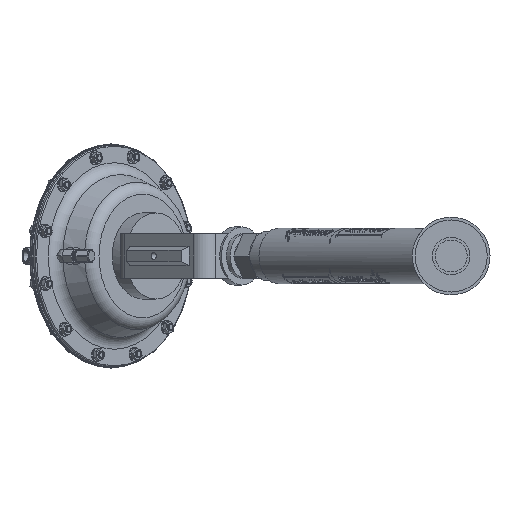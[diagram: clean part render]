
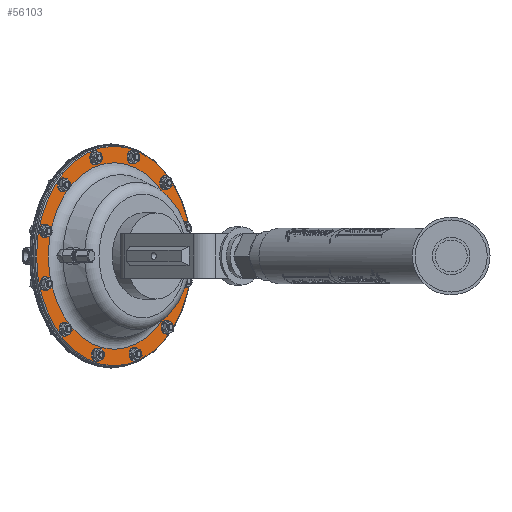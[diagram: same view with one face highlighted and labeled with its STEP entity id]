
A CAD part, left-side view. The second image highlights one B-rep face of the part: STEP entity #56103.
In plain terms, the highlighted planar face has unit normal (-0.707, -0.707, 0).
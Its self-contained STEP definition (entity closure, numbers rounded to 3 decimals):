
#416 = DIRECTION ( 'NONE',  ( 0., 0., 1. ) ) ;
#1109 = CIRCLE ( 'NONE', #15715, 0.313 ) ;
#1874 = EDGE_LOOP ( 'NONE', ( #60133 ) ) ;
#2381 = CARTESIAN_POINT ( 'NONE',  ( 20.097, 17.511, 3.519 ) ) ;
#3710 = DIRECTION ( 'NONE',  ( 0., 0., 1. ) ) ;
#3987 = CARTESIAN_POINT ( 'NONE',  ( 19.276, 18.332, 1.128 ) ) ;
#4164 = CARTESIAN_POINT ( 'NONE',  ( 22.429, 15.179, 0. ) ) ;
#4278 = DIRECTION ( 'NONE',  ( -0.707, -0.707, 0. ) ) ;
#4341 = CIRCLE ( 'NONE', #65932, 0.313 ) ;
#4771 = EDGE_CURVE ( 'NONE', #43981, #43981, #4341, .T. ) ;
#5056 = ORIENTED_EDGE ( 'NONE', *, *, #4771, .T. ) ;
#5830 = CARTESIAN_POINT ( 'NONE',  ( 20.097, 17.511, 3.207 ) ) ;
#7117 = AXIS2_PLACEMENT_3D ( 'NONE', #65814, #49365, #61231 ) ;
#7242 = FACE_BOUND ( 'NONE', #31561, .T. ) ;
#8243 = VERTEX_POINT ( 'NONE', #36334 ) ;
#8330 = VERTEX_POINT ( 'NONE', #36069 ) ;
#8619 = DIRECTION ( 'NONE',  ( 0.707, 0.707, 0. ) ) ;
#8681 = CARTESIAN_POINT ( 'NONE',  ( 24.761, 12.847, -2.894 ) ) ;
#8852 = DIRECTION ( 'NONE',  ( 0., 0., 1. ) ) ;
#9187 = CARTESIAN_POINT ( 'NONE',  ( 22.429, 15.179, 0. ) ) ;
#9437 = EDGE_CURVE ( 'NONE', #20378, #20378, #61630, .T. ) ;
#10610 = ORIENTED_EDGE ( 'NONE', *, *, #19132, .T. ) ;
#10866 = CARTESIAN_POINT ( 'NONE',  ( 23.227, 14.381, 4.772 ) ) ;
#11983 = EDGE_CURVE ( 'NONE', #31606, #31606, #1109, .T. ) ;
#12170 = FACE_BOUND ( 'NONE', #67868, .T. ) ;
#12489 = EDGE_LOOP ( 'NONE', ( #33820 ) ) ;
#12849 = FACE_BOUND ( 'NONE', #1874, .T. ) ;
#14311 = EDGE_LOOP ( 'NONE', ( #15221 ) ) ;
#14610 = AXIS2_PLACEMENT_3D ( 'NONE', #5830, #21986, #65126 ) ;
#14729 = CARTESIAN_POINT ( 'NONE',  ( 24.761, 12.847, -3.207 ) ) ;
#14785 = ORIENTED_EDGE ( 'NONE', *, *, #23966, .T. ) ;
#15221 = ORIENTED_EDGE ( 'NONE', *, *, #34800, .T. ) ;
#15715 = AXIS2_PLACEMENT_3D ( 'NONE', #68527, #56939, #8852 ) ;
#15732 = EDGE_CURVE ( 'NONE', #37558, #37558, #35386, .T. ) ;
#17746 = CARTESIAN_POINT ( 'NONE',  ( 21.543, 16.065, 4.739 ) ) ;
#17827 = CARTESIAN_POINT ( 'NONE',  ( 23.315, 14.293, -4.114 ) ) ;
#17841 = CARTESIAN_POINT ( 'NONE',  ( 24.697, 12.912, 3.611 ) ) ;
#18126 = FACE_BOUND ( 'NONE', #22657, .T. ) ;
#19132 = EDGE_CURVE ( 'NONE', #65566, #65566, #36259, .T. ) ;
#19757 = EDGE_LOOP ( 'NONE', ( #36396 ) ) ;
#20348 = DIRECTION ( 'NONE',  ( 0.707, 0.707, 0. ) ) ;
#20378 = VERTEX_POINT ( 'NONE', #57906 ) ;
#20619 = AXIS2_PLACEMENT_3D ( 'NONE', #37420, #68646, #41651 ) ;
#20626 = AXIS2_PLACEMENT_3D ( 'NONE', #14729, #20348, #57527 ) ;
#21194 = DIRECTION ( 'NONE',  ( 0.707, 0.707, 0. ) ) ;
#21350 = AXIS2_PLACEMENT_3D ( 'NONE', #55261, #48391, #53649 ) ;
#21986 = DIRECTION ( 'NONE',  ( 0.707, 0.707, 0. ) ) ;
#22476 = ORIENTED_EDGE ( 'NONE', *, *, #57144, .F. ) ;
#22657 = EDGE_LOOP ( 'NONE', ( #14785 ) ) ;
#23966 = EDGE_CURVE ( 'NONE', #32985, #32985, #31861, .T. ) ;
#24093 = DIRECTION ( 'NONE',  ( 0.707, 0.707, 0. ) ) ;
#25071 = CIRCLE ( 'NONE', #29525, 0.313 ) ;
#25412 = DIRECTION ( 'NONE',  ( 0., 0., 1. ) ) ;
#26343 = CARTESIAN_POINT ( 'NONE',  ( 25.582, 12.026, -0.815 ) ) ;
#26862 = EDGE_CURVE ( 'NONE', #39936, #39936, #44875, .T. ) ;
#27626 = VERTEX_POINT ( 'NONE', #17746 ) ;
#27654 = FACE_BOUND ( 'NONE', #57894, .T. ) ;
#28159 = EDGE_LOOP ( 'NONE', ( #44491 ) ) ;
#29511 = DIRECTION ( 'NONE',  ( 0.707, 0.707, 0. ) ) ;
#29525 = AXIS2_PLACEMENT_3D ( 'NONE', #35522, #39742, #67443 ) ;
#29764 = AXIS2_PLACEMENT_3D ( 'NONE', #41101, #29511, #41453 ) ;
#30110 = VERTEX_POINT ( 'NONE', #8681 ) ;
#30232 = EDGE_LOOP ( 'NONE', ( #22476 ) ) ;
#30403 = DIRECTION ( 'NONE',  ( 0., 0., 1. ) ) ;
#30612 = DIRECTION ( 'NONE',  ( 0., 0., -1. ) ) ;
#31545 = DIRECTION ( 'NONE',  ( 0., 0., -1. ) ) ;
#31561 = EDGE_LOOP ( 'NONE', ( #43309 ) ) ;
#31606 = VERTEX_POINT ( 'NONE', #10866 ) ;
#31861 = CIRCLE ( 'NONE', #20619, 0.313 ) ;
#32070 = CARTESIAN_POINT ( 'NONE',  ( 20.162, 17.447, -2.986 ) ) ;
#32985 = VERTEX_POINT ( 'NONE', #17827 ) ;
#33070 = CARTESIAN_POINT ( 'NONE',  ( 21.631, 15.977, -4.46 ) ) ;
#33248 = FACE_BOUND ( 'NONE', #12489, .T. ) ;
#33820 = ORIENTED_EDGE ( 'NONE', *, *, #9437, .T. ) ;
#34487 = EDGE_CURVE ( 'NONE', #57803, #57803, #25071, .T. ) ;
#34800 = EDGE_CURVE ( 'NONE', #8330, #8330, #49769, .T. ) ;
#35073 = EDGE_CURVE ( 'NONE', #30110, #30110, #60910, .T. ) ;
#35318 = FACE_OUTER_BOUND ( 'NONE', #14311, .T. ) ;
#35386 = CIRCLE ( 'NONE', #29764, 0.313 ) ;
#35522 = CARTESIAN_POINT ( 'NONE',  ( 19.299, 18.309, -1.253 ) ) ;
#35667 = FACE_BOUND ( 'NONE', #30232, .T. ) ;
#35900 = CIRCLE ( 'NONE', #65001, 4.203 ) ;
#36069 = CARTESIAN_POINT ( 'NONE',  ( 22.429, 15.179, -4.95 ) ) ;
#36259 = CIRCLE ( 'NONE', #7117, 0.313 ) ;
#36334 = CARTESIAN_POINT ( 'NONE',  ( 22.429, 15.179, -4.203 ) ) ;
#36396 = ORIENTED_EDGE ( 'NONE', *, *, #26862, .T. ) ;
#36403 = AXIS2_PLACEMENT_3D ( 'NONE', #33070, #59718, #416 ) ;
#37144 = EDGE_CURVE ( 'NONE', #62709, #62709, #59919, .T. ) ;
#37420 = CARTESIAN_POINT ( 'NONE',  ( 23.315, 14.293, -4.426 ) ) ;
#37558 = VERTEX_POINT ( 'NONE', #26343 ) ;
#37636 = DIRECTION ( 'NONE',  ( 0., 0., 1. ) ) ;
#37871 = EDGE_LOOP ( 'NONE', ( #5056 ) ) ;
#38212 = AXIS2_PLACEMENT_3D ( 'NONE', #3987, #21194, #25412 ) ;
#39544 = FACE_BOUND ( 'NONE', #59890, .T. ) ;
#39742 = DIRECTION ( 'NONE',  ( 0.707, 0.707, 0. ) ) ;
#39936 = VERTEX_POINT ( 'NONE', #2381 ) ;
#40241 = CARTESIAN_POINT ( 'NONE',  ( 19.457, 18.151, 0. ) ) ;
#40558 = CARTESIAN_POINT ( 'NONE',  ( 19.276, 18.332, 1.44 ) ) ;
#40640 = CARTESIAN_POINT ( 'NONE',  ( 21.631, 15.977, -4.147 ) ) ;
#41101 = CARTESIAN_POINT ( 'NONE',  ( 25.582, 12.026, -1.128 ) ) ;
#41453 = DIRECTION ( 'NONE',  ( 0., 0., 1. ) ) ;
#41651 = DIRECTION ( 'NONE',  ( 0., 0., 1. ) ) ;
#42422 = EDGE_LOOP ( 'NONE', ( #47513 ) ) ;
#43097 = AXIS2_PLACEMENT_3D ( 'NONE', #9187, #4278, #30612 ) ;
#43309 = ORIENTED_EDGE ( 'NONE', *, *, #37144, .T. ) ;
#43363 = AXIS2_PLACEMENT_3D ( 'NONE', #59017, #64290, #37636 ) ;
#43981 = VERTEX_POINT ( 'NONE', #32070 ) ;
#44145 = FACE_BOUND ( 'NONE', #65970, .T. ) ;
#44491 = ORIENTED_EDGE ( 'NONE', *, *, #57640, .T. ) ;
#44875 = CIRCLE ( 'NONE', #14610, 0.313 ) ;
#47513 = ORIENTED_EDGE ( 'NONE', *, *, #11983, .T. ) ;
#48391 = DIRECTION ( 'NONE',  ( 0.707, 0.707, 0. ) ) ;
#48784 = ORIENTED_EDGE ( 'NONE', *, *, #50642, .T. ) ;
#49365 = DIRECTION ( 'NONE',  ( 0.707, 0.707, 0. ) ) ;
#49769 = CIRCLE ( 'NONE', #43097, 4.95 ) ;
#50642 = EDGE_CURVE ( 'NONE', #27626, #27626, #56776, .T. ) ;
#50764 = PLANE ( 'NONE',  #69470 ) ;
#52602 = DIRECTION ( 'NONE',  ( -0.707, -0.707, 0. ) ) ;
#53649 = DIRECTION ( 'NONE',  ( 0., 0., 1. ) ) ;
#55261 = CARTESIAN_POINT ( 'NONE',  ( 25.559, 12.049, 1.253 ) ) ;
#55327 = FACE_BOUND ( 'NONE', #37871, .T. ) ;
#56103 = ADVANCED_FACE ( 'NONE', ( #27654, #55327, #7242, #18126, #39544, #12849, #33248, #44145, #60242, #12170, #62655, #56705, #35667, #35318 ), #50764, .F. ) ;
#56705 = FACE_BOUND ( 'NONE', #28159, .T. ) ;
#56776 = CIRCLE ( 'NONE', #43363, 0.313 ) ;
#56939 = DIRECTION ( 'NONE',  ( 0.707, 0.707, 0. ) ) ;
#57144 = EDGE_CURVE ( 'NONE', #8243, #8243, #35900, .T. ) ;
#57373 = VERTEX_POINT ( 'NONE', #40558 ) ;
#57527 = DIRECTION ( 'NONE',  ( 0., 0., 1. ) ) ;
#57640 = EDGE_CURVE ( 'NONE', #57373, #57373, #63950, .T. ) ;
#57803 = VERTEX_POINT ( 'NONE', #61671 ) ;
#57894 = EDGE_LOOP ( 'NONE', ( #63573 ) ) ;
#57906 = CARTESIAN_POINT ( 'NONE',  ( 25.559, 12.049, 1.565 ) ) ;
#59017 = CARTESIAN_POINT ( 'NONE',  ( 21.543, 16.065, 4.426 ) ) ;
#59718 = DIRECTION ( 'NONE',  ( 0.707, 0.707, 0. ) ) ;
#59890 = EDGE_LOOP ( 'NONE', ( #67317 ) ) ;
#59919 = CIRCLE ( 'NONE', #36403, 0.313 ) ;
#60133 = ORIENTED_EDGE ( 'NONE', *, *, #15732, .T. ) ;
#60242 = FACE_BOUND ( 'NONE', #42422, .T. ) ;
#60910 = CIRCLE ( 'NONE', #20626, 0.313 ) ;
#61231 = DIRECTION ( 'NONE',  ( 0., 0., 1. ) ) ;
#61630 = CIRCLE ( 'NONE', #21350, 0.313 ) ;
#61671 = CARTESIAN_POINT ( 'NONE',  ( 19.299, 18.309, -0.94 ) ) ;
#62655 = FACE_BOUND ( 'NONE', #19757, .T. ) ;
#62709 = VERTEX_POINT ( 'NONE', #40640 ) ;
#63573 = ORIENTED_EDGE ( 'NONE', *, *, #34487, .T. ) ;
#63950 = CIRCLE ( 'NONE', #38212, 0.313 ) ;
#64290 = DIRECTION ( 'NONE',  ( 0.707, 0.707, 0. ) ) ;
#65001 = AXIS2_PLACEMENT_3D ( 'NONE', #4164, #52602, #31545 ) ;
#65126 = DIRECTION ( 'NONE',  ( 0., 0., 1. ) ) ;
#65566 = VERTEX_POINT ( 'NONE', #17841 ) ;
#65814 = CARTESIAN_POINT ( 'NONE',  ( 24.697, 12.912, 3.298 ) ) ;
#65932 = AXIS2_PLACEMENT_3D ( 'NONE', #66540, #8619, #3710 ) ;
#65970 = EDGE_LOOP ( 'NONE', ( #10610 ) ) ;
#66540 = CARTESIAN_POINT ( 'NONE',  ( 20.162, 17.447, -3.298 ) ) ;
#67317 = ORIENTED_EDGE ( 'NONE', *, *, #35073, .T. ) ;
#67443 = DIRECTION ( 'NONE',  ( 0., 0., 1. ) ) ;
#67868 = EDGE_LOOP ( 'NONE', ( #48784 ) ) ;
#68527 = CARTESIAN_POINT ( 'NONE',  ( 23.227, 14.381, 4.46 ) ) ;
#68646 = DIRECTION ( 'NONE',  ( 0.707, 0.707, 0. ) ) ;
#69470 = AXIS2_PLACEMENT_3D ( 'NONE', #40241, #24093, #30403 ) ;
